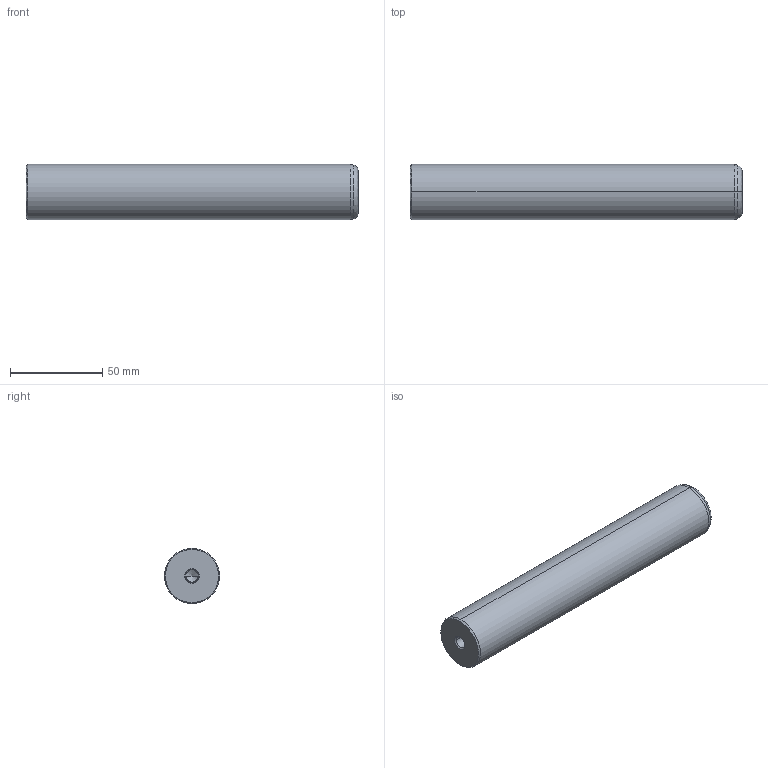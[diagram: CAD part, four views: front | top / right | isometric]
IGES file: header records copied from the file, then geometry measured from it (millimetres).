
Start section: START RECORD GO HERE.
Global section: file name: 720-30x180.igs; native system: DASSAULT SYSTEMES CATIA V5 R20 - www.3ds.com; preprocessor: CATIA Version 5 Release 20 ; author: Utente; organization: NB04-ASUS; date: 20210101.133250; units: millimetre
Bounding box: 180 x 30 x 30 mm (x, y, z)
Surface area: 19175.3 mm2 (no closed solid volume)
Topology: 0 solids, 0 shells, 22 faces, 108 edges, 104 vertices
Faces by surface type: revolution 20, plane 2
